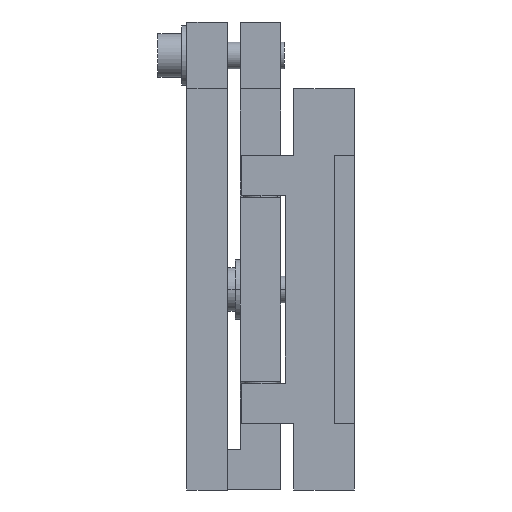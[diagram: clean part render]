
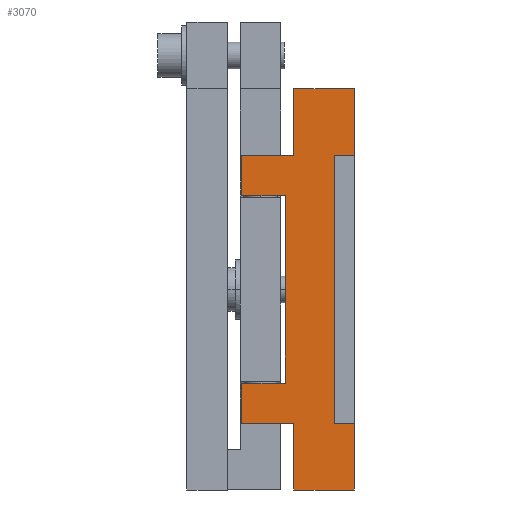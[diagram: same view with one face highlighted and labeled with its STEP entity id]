
A CAD part, left-side view. The second image highlights one B-rep face of the part: STEP entity #3070.
In plain terms, the highlighted planar face has unit normal (-1, 0, 0).
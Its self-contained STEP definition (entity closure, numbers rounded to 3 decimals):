
#80 = VECTOR ( 'NONE', #1868, 1000. ) ;
#159 = DIRECTION ( 'NONE',  ( -1., 0., 0. ) ) ;
#167 = ORIENTED_EDGE ( 'NONE', *, *, #4264, .F. ) ;
#277 = CARTESIAN_POINT ( 'NONE',  ( -30., -20., 3. ) ) ;
#312 = EDGE_CURVE ( 'NONE', #2817, #6232, #5531, .T. ) ;
#326 = DIRECTION ( 'NONE',  ( 0., 0., 1. ) ) ;
#373 = VECTOR ( 'NONE', #5492, 1000. ) ;
#405 = LINE ( 'NONE', #5750, #3013 ) ;
#473 = DIRECTION ( 'NONE',  ( 0., 0., 1. ) ) ;
#496 = CARTESIAN_POINT ( 'NONE',  ( -30., 20., 16.8 ) ) ;
#600 = EDGE_CURVE ( 'NONE', #3061, #1232, #2519, .T. ) ;
#647 = VECTOR ( 'NONE', #6097, 1000. ) ;
#730 = CARTESIAN_POINT ( 'NONE',  ( -30., -20., 0. ) ) ;
#733 = LINE ( 'NONE', #6414, #3526 ) ;
#746 = ORIENTED_EDGE ( 'NONE', *, *, #5056, .T. ) ;
#773 = VECTOR ( 'NONE', #4087, 1000. ) ;
#854 = VECTOR ( 'NONE', #4495, 1000. ) ;
#1015 = CARTESIAN_POINT ( 'NONE',  ( -30., 14., 10.3 ) ) ;
#1061 = EDGE_CURVE ( 'NONE', #6791, #4062, #5753, .T. ) ;
#1186 = EDGE_CURVE ( 'NONE', #3151, #6301, #3798, .T. ) ;
#1232 = VERTEX_POINT ( 'NONE', #4902 ) ;
#1313 = ORIENTED_EDGE ( 'NONE', *, *, #1970, .T. ) ;
#1323 = DIRECTION ( 'NONE',  ( 0., -1., 0. ) ) ;
#1459 = VERTEX_POINT ( 'NONE', #6749 ) ;
#1489 = EDGE_CURVE ( 'NONE', #5814, #1611, #1734, .T. ) ;
#1513 = DIRECTION ( 'NONE',  ( 0., 0., -1. ) ) ;
#1546 = CARTESIAN_POINT ( 'NONE',  ( -30., 20., 16.8 ) ) ;
#1611 = VERTEX_POINT ( 'NONE', #277 ) ;
#1734 = LINE ( 'NONE', #730, #80 ) ;
#1868 = DIRECTION ( 'NONE',  ( 0., 0., 1. ) ) ;
#1970 = EDGE_CURVE ( 'NONE', #5814, #1459, #405, .T. ) ;
#1975 = CARTESIAN_POINT ( 'NONE',  ( -30., 14., 16.8 ) ) ;
#2137 = DIRECTION ( 'NONE',  ( 0., 0., 1. ) ) ;
#2146 = DIRECTION ( 'NONE',  ( 0., 0., -1. ) ) ;
#2205 = CARTESIAN_POINT ( 'NONE',  ( -30., 20., 0. ) ) ;
#2274 = ORIENTED_EDGE ( 'NONE', *, *, #1186, .F. ) ;
#2312 = LINE ( 'NONE', #5565, #647 ) ;
#2330 = CARTESIAN_POINT ( 'NONE',  ( -30., -30., 0. ) ) ;
#2378 = CARTESIAN_POINT ( 'NONE',  ( -30., -20., 9. ) ) ;
#2380 = VECTOR ( 'NONE', #7009, 1000. ) ;
#2474 = CARTESIAN_POINT ( 'NONE',  ( -30., -14., 10.3 ) ) ;
#2519 = LINE ( 'NONE', #2862, #854 ) ;
#2584 = DIRECTION ( 'NONE',  ( 0., -1., 0. ) ) ;
#2608 = VECTOR ( 'NONE', #2146, 1000. ) ;
#2798 = ORIENTED_EDGE ( 'NONE', *, *, #5173, .T. ) ;
#2813 = LINE ( 'NONE', #5417, #5713 ) ;
#2817 = VERTEX_POINT ( 'NONE', #496 ) ;
#2832 = CARTESIAN_POINT ( 'NONE',  ( -30., -20., 0. ) ) ;
#2862 = CARTESIAN_POINT ( 'NONE',  ( -30., -30., 9. ) ) ;
#2875 = VERTEX_POINT ( 'NONE', #3332 ) ;
#2887 = VERTEX_POINT ( 'NONE', #4430 ) ;
#2985 = CARTESIAN_POINT ( 'NONE',  ( -30., 20., 3. ) ) ;
#3013 = VECTOR ( 'NONE', #1323, 1000. ) ;
#3061 = VERTEX_POINT ( 'NONE', #2378 ) ;
#3070 = ADVANCED_FACE ( 'NONE', ( #5063 ), #3497, .T. ) ;
#3096 = CARTESIAN_POINT ( 'NONE',  ( -30., 30., 0. ) ) ;
#3123 = ORIENTED_EDGE ( 'NONE', *, *, #1061, .F. ) ;
#3132 = LINE ( 'NONE', #2330, #5104 ) ;
#3151 = VERTEX_POINT ( 'NONE', #2474 ) ;
#3169 = LINE ( 'NONE', #3096, #6073 ) ;
#3203 = EDGE_CURVE ( 'NONE', #3061, #4251, #4203, .T. ) ;
#3303 = EDGE_CURVE ( 'NONE', #4062, #3151, #733, .T. ) ;
#3332 = CARTESIAN_POINT ( 'NONE',  ( -30., 30., 9. ) ) ;
#3497 = PLANE ( 'NONE',  #6304 ) ;
#3526 = VECTOR ( 'NONE', #2584, 1000. ) ;
#3579 = EDGE_CURVE ( 'NONE', #2875, #6232, #2312, .T. ) ;
#3629 = CARTESIAN_POINT ( 'NONE',  ( -30., -20., 16.8 ) ) ;
#3641 = ORIENTED_EDGE ( 'NONE', *, *, #600, .F. ) ;
#3767 = CARTESIAN_POINT ( 'NONE',  ( -30., -14., 16.8 ) ) ;
#3798 = LINE ( 'NONE', #3767, #4919 ) ;
#4027 = DIRECTION ( 'NONE',  ( 0., -1., 0. ) ) ;
#4029 = VECTOR ( 'NONE', #5220, 1000. ) ;
#4062 = VERTEX_POINT ( 'NONE', #1015 ) ;
#4084 = ORIENTED_EDGE ( 'NONE', *, *, #1489, .F. ) ;
#4087 = DIRECTION ( 'NONE',  ( 0., -1., 0. ) ) ;
#4090 = ORIENTED_EDGE ( 'NONE', *, *, #3579, .F. ) ;
#4145 = CARTESIAN_POINT ( 'NONE',  ( -30., -20., 16.8 ) ) ;
#4203 = LINE ( 'NONE', #4145, #4029 ) ;
#4234 = CARTESIAN_POINT ( 'NONE',  ( -30., 20., 9. ) ) ;
#4251 = VERTEX_POINT ( 'NONE', #3629 ) ;
#4264 = EDGE_CURVE ( 'NONE', #4602, #2875, #3169, .T. ) ;
#4305 = CARTESIAN_POINT ( 'NONE',  ( -30., -14., 16.8 ) ) ;
#4429 = ORIENTED_EDGE ( 'NONE', *, *, #6695, .T. ) ;
#4430 = CARTESIAN_POINT ( 'NONE',  ( -30., 20., 3. ) ) ;
#4495 = DIRECTION ( 'NONE',  ( 0., -1., 0. ) ) ;
#4527 = ORIENTED_EDGE ( 'NONE', *, *, #3303, .F. ) ;
#4543 = ORIENTED_EDGE ( 'NONE', *, *, #5644, .T. ) ;
#4602 = VERTEX_POINT ( 'NONE', #6067 ) ;
#4616 = LINE ( 'NONE', #2205, #373 ) ;
#4696 = CARTESIAN_POINT ( 'NONE',  ( -30., 20., 16.8 ) ) ;
#4808 = CARTESIAN_POINT ( 'NONE',  ( -30., 14., 16.8 ) ) ;
#4902 = CARTESIAN_POINT ( 'NONE',  ( -30., -30., 9. ) ) ;
#4905 = CARTESIAN_POINT ( 'NONE',  ( -30., 20., 16.8 ) ) ;
#4919 = VECTOR ( 'NONE', #473, 1000. ) ;
#4955 = VECTOR ( 'NONE', #5228, 1000. ) ;
#5056 = EDGE_CURVE ( 'NONE', #4251, #6301, #5294, .T. ) ;
#5063 = FACE_OUTER_BOUND ( 'NONE', #6197, .T. ) ;
#5104 = VECTOR ( 'NONE', #6163, 1000. ) ;
#5173 = EDGE_CURVE ( 'NONE', #6767, #2887, #4616, .T. ) ;
#5178 = LINE ( 'NONE', #2985, #773 ) ;
#5220 = DIRECTION ( 'NONE',  ( 0., 0., 1. ) ) ;
#5228 = DIRECTION ( 'NONE',  ( 0., 1., 0. ) ) ;
#5285 = LINE ( 'NONE', #4696, #4955 ) ;
#5294 = LINE ( 'NONE', #1546, #2380 ) ;
#5311 = ORIENTED_EDGE ( 'NONE', *, *, #6519, .T. ) ;
#5417 = CARTESIAN_POINT ( 'NONE',  ( -30., -30., 0. ) ) ;
#5492 = DIRECTION ( 'NONE',  ( 0., 0., 1. ) ) ;
#5512 = EDGE_CURVE ( 'NONE', #6791, #2817, #5285, .T. ) ;
#5531 = LINE ( 'NONE', #4905, #2608 ) ;
#5539 = ORIENTED_EDGE ( 'NONE', *, *, #3203, .T. ) ;
#5565 = CARTESIAN_POINT ( 'NONE',  ( -30., -30., 9. ) ) ;
#5644 = EDGE_CURVE ( 'NONE', #1459, #1232, #2813, .T. ) ;
#5713 = VECTOR ( 'NONE', #2137, 1000. ) ;
#5750 = CARTESIAN_POINT ( 'NONE',  ( -30., -30., 0. ) ) ;
#5753 = LINE ( 'NONE', #4808, #7045 ) ;
#5814 = VERTEX_POINT ( 'NONE', #2832 ) ;
#6067 = CARTESIAN_POINT ( 'NONE',  ( -30., 30., 0. ) ) ;
#6073 = VECTOR ( 'NONE', #326, 1000. ) ;
#6097 = DIRECTION ( 'NONE',  ( 0., -1., 0. ) ) ;
#6163 = DIRECTION ( 'NONE',  ( 0., -1., 0. ) ) ;
#6197 = EDGE_LOOP ( 'NONE', ( #5311, #2798, #4429, #4084, #1313, #4543, #3641, #5539, #746, #2274, #4527, #3123, #6205, #6654, #4090, #167 ) ) ;
#6205 = ORIENTED_EDGE ( 'NONE', *, *, #5512, .T. ) ;
#6232 = VERTEX_POINT ( 'NONE', #4234 ) ;
#6301 = VERTEX_POINT ( 'NONE', #4305 ) ;
#6304 = AXIS2_PLACEMENT_3D ( 'NONE', #6751, #159, #4027 ) ;
#6333 = CARTESIAN_POINT ( 'NONE',  ( -30., 20., 0. ) ) ;
#6414 = CARTESIAN_POINT ( 'NONE',  ( -30., 14., 10.3 ) ) ;
#6519 = EDGE_CURVE ( 'NONE', #4602, #6767, #3132, .T. ) ;
#6654 = ORIENTED_EDGE ( 'NONE', *, *, #312, .T. ) ;
#6695 = EDGE_CURVE ( 'NONE', #2887, #1611, #5178, .T. ) ;
#6749 = CARTESIAN_POINT ( 'NONE',  ( -30., -30., 0. ) ) ;
#6751 = CARTESIAN_POINT ( 'NONE',  ( -30., -30., 0. ) ) ;
#6767 = VERTEX_POINT ( 'NONE', #6333 ) ;
#6791 = VERTEX_POINT ( 'NONE', #1975 ) ;
#7009 = DIRECTION ( 'NONE',  ( 0., 1., 0. ) ) ;
#7045 = VECTOR ( 'NONE', #1513, 1000. ) ;
